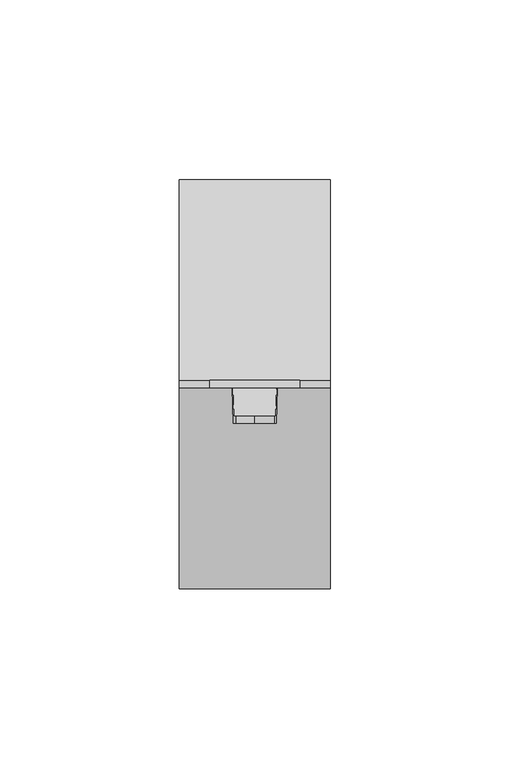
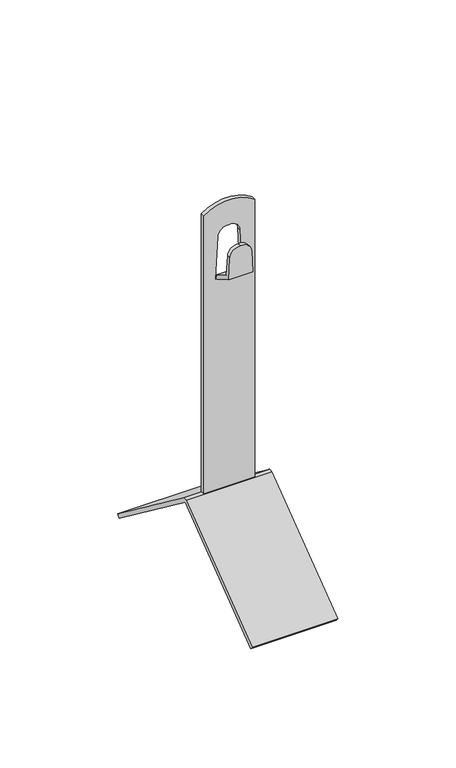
"""IFC4 building model written with IfcOpenShell, lengths in millimetres: proxy geometry, КНС_ЗажимУгловойКоньковый _DKC : ND2201CU_Медь_150 мм."""

from ifc_helpers import new_model, si_unit, point, frame, frame_2d, origin, place, context, project, spatial, polyline, circle_curve, trimmed, segment, composite_curve, outline, extrude, source, transform, mapped, element, save
from ifc_brep_helpers import plane_surface, cylinder_surface, advanced_brep


def security_devices_262bb10d(model_context):
    return source(origin(), model_context, "Body", "SolidModel", [
        extrude(outline(polyline([(55.8136019, -42.0), (0.0, 0.0), (-55.8136019, -42.0), (-57.0000602, -40.3898066), (-1.0, 1.7505042), (1.0, 1.7505042), (57.0000602, -40.3898066), (55.8136019, -42.0)])), frame((-21.0, 0.0, 0.0), z_axis=(1.0, 0.0, 0.0), x_axis=(0.0, 1.0, 0.0)), (0.0, 0.0, 1.0), 42.0),
        extrude(outline(composite_curve([segment(polyline([(1.7505042, -12.5), (1.7505042, 12.5), (145.874537, 12.5)]), True, "CONTINUOUS"), segment(trimmed(circle_curve(frame_2d((129.0, 0.0)), 21.0), [point((145.874537, 12.5))], [point((145.874537, -12.5))], False, "CARTESIAN"), True, "CONTINUOUS"), segment(polyline([(145.874537, -12.5), (1.7505042, -12.5)]), True, "CONTINUOUS")], self_intersect=False), holes=[composite_curve([segment(trimmed(circle_curve(frame_2d((132.4155168, -0.5834648)), 4.7876253), [point((132.6660817, -5.3645288))], [point((137.1674559, 0.0))], True, "CARTESIAN"), True, "CONTINUOUS"), segment(trimmed(circle_curve(frame_2d((132.4155168, 0.5834648)), 4.7876253), [point((137.1674559, 0.0))], [point((132.6660817, 5.3645288))], True, "CARTESIAN"), True, "CONTINUOUS"), segment(polyline([(132.6660817, 5.3645288), (111.0, 6.5), (111.0, -6.5), (132.6660817, -5.3645288)]), True, "CONTINUOUS")], self_intersect=False)]), frame((0.0, -1.0, 0.0), z_axis=(0.0, 1.0, 0.0), x_axis=(0.0, 0.0, 1.0)), (0.0, 0.0, 1.0), 2.0),
        advanced_brep(
        [(5.3645288, -11.0, 127.6660817), (0.0, -11.0, 132.1674559), (-5.3645288, -11.0, 127.6660817), (-5.9353846, -11.0, 116.7735027), (5.9353846, -11.0, 116.7735027), (6.2379611, -1.0, 111.0), (-6.2379611, -1.0, 111.0), (-6.1169305, -1.0, 113.3094011), (6.1169305, -1.0, 113.3094011), (-5.3645288, -9.0, 127.6660817), (-5.8748694, -9.0, 117.9282032), (5.8748694, -9.0, 117.9282032), (5.3645288, -9.0, 127.6660817), (0.0, -9.0, 132.1674559)],
        [
            (0, 1, circle_curve(frame((0.5834648, -11.0, 127.4155168), z_axis=(0.0, -1.0, 0.0), x_axis=(1.0, 0.0, 0.0)), 4.7876253)),
            (1, 2, circle_curve(frame((-0.5834648, -11.0, 127.4155168), z_axis=(0.0, -1.0, 0.0), x_axis=(1.0, 0.0, 0.0)), 4.7876253)),
            (2, 3),
            (3, 4),
            (4, 0),
            (5, 6),
            (6, 7),
            (7, 8),
            (8, 5),
            (2, 9),
            (9, 10),
            (10, 7),
            (6, 3),
            (4, 5),
            (8, 11),
            (11, 12),
            (12, 0),
            (12, 13, circle_curve(frame((0.5834648, -9.0, 127.4155168), z_axis=(0.0, -1.0, 0.0), x_axis=(1.0, 0.0, 0.0)), 4.7876253)),
            (13, 1),
            (13, 9, circle_curve(frame((-0.5834648, -9.0, 127.4155168), z_axis=(0.0, -1.0, 0.0), x_axis=(1.0, 0.0, 0.0)), 4.7876253)),
            (10, 11),
        ],
        [
            plane_surface(frame((-6.2414541, -11.0, 110.9333499), z_axis=(0.0, -1.0, 0.0), x_axis=(-0.05233595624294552, 0.0, -0.9986295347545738))),
            plane_surface(frame((-6.2414541, -1.0, 110.9333499), z_axis=(0.0, 1.0, 0.0), x_axis=(0.05233595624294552, 0.0, 0.9986295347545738))),
            plane_surface(frame((-5.3645288, -11.0, 127.6660817), z_axis=(-0.9986295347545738, 0.0, 0.05233595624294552), x_axis=(0.0, 1.0, 0.0))),
            plane_surface(frame((6.2379611, -11.0, 111.0), z_axis=(0.9986295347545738, 0.0, 0.05233595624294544), x_axis=(0.0, 1.0, 0.0))),
            cylinder_surface(frame((0.5834648, -1.0, 127.4155168), z_axis=(0.0, -1.0, 0.0), x_axis=(1.0, 0.0, 0.0)), 4.7876253),
            cylinder_surface(frame((-0.5834648, -1.0, 127.4155168), z_axis=(0.0, -1.0, 0.0), x_axis=(1.0, 0.0, 0.0)), 4.7876253),
            plane_surface(frame((12.5, -1.0, 111.0), z_axis=(0.0, -0.5000000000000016, -0.8660254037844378), x_axis=(-1.0, 0.0, 0.0))),
            plane_surface(frame((12.5, -9.0, 117.9282032), z_axis=(0.0, 0.5000000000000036, 0.8660254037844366), x_axis=(-1.0, 0.0, 0.0))),
            plane_surface(frame((12.5, -9.0, 142.9372685), z_axis=(0.0, 1.0, 0.0), x_axis=(-1.0, 0.0, 0.0))),
        ],
        [
            (0, [[1, 2, 3, 4, 5]]),
            (1, [[6, 7, 8, 9]]),
            (2, [[-3, 10, 11, 12, -7, 13]]),
            (3, [[-5, 14, -9, 15, 16, 17]]),
            (4, [[-1, -17, 18, 19]]),
            (5, [[-2, -19, 20, -10]]),
            (6, [[-4, -13, -6, -14]]),
            (7, [[21, -15, -8, -12]]),
            (8, [[-21, -11, -20, -18, -16]]),
        ],
    ),
    ])


if __name__ == "__main__":
    model = new_model("IFC4")
    model_context = context("Model", 3, world=origin())
    ifc_project = project(units=[si_unit("LENGTHUNIT", "METRE", prefix="MILLI")], contexts=[model_context])
    site = spatial("IfcSite", under=ifc_project)
    building = spatial("IfcBuilding", under=site)
    placement = place(None, origin())
    security_devices_shape = security_devices_262bb10d(model_context)
    element("IfcBuildingElementProxy", 1, Name="КНС_ЗажимУгловойКоньковый _DKC : ND2201CU_Медь_150 мм", ObjectType="КНС_ЗажимУгловойКоньковый _DKC : ND2201CU_Медь_150 мм", at=placement, inside=building, context=model_context, shape_type="MappedRepresentation", body=[
        mapped(security_devices_shape, transform((0.0, 0.0, 0.0), x_axis=(1.0, 0.0, 0.0), y_axis=(0.0, 1.0, 0.0), z_axis=(0.0, 0.0, 1.0))),
    ])
    save(model, "model.ifc")
